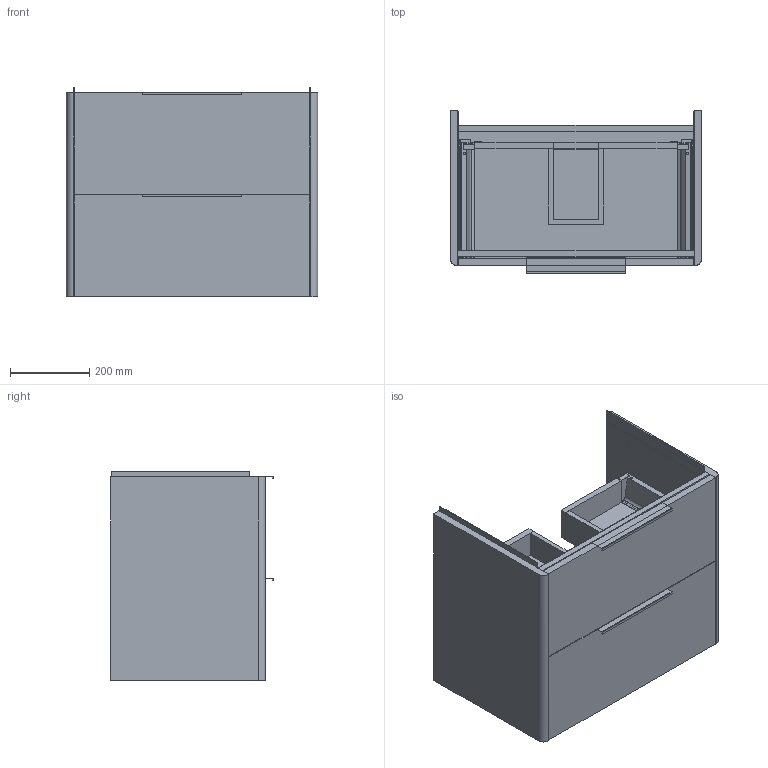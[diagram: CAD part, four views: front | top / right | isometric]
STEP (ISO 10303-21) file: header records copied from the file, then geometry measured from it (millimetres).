
FILE_DESCRIPTION(/* description */ (''),/* implementation_level */ '2;1');
FILE_NAME(/* name */ '3D8962~1',/* time_stamp */ '2018-05-07T13:15:11+02:00',/* author */ (''),/* organization */ (''),/* preprocessor_version */ 'ST-DEVELOPER v15',/* originating_system */ '',/* authorisation */ '');
FILE_SCHEMA (('AUTOMOTIVE_DESIGN'));
Length unit declared in the file: millimetre
Products named in the file (23): Document; 300-84_MIR3; 300-84_1_MIR3; 300-84_2_MIR3; 300-84_3_MIR3; 300-84; 300-84_1; 300-84_2; 300-84_3; maniglia inferiore; Maniglia superiore; Frontale cassetto inferiore; Retro_cassetto inferiore; Fascia rialzo; Retro cassetto superiore; Fondo cassetto inferiore; Fondo cassetto superiore; Fondo mobile; Fianco dx; Fianco sx; Catena inferiore; Frontale cassetto superiore; Catena_superiore
Assembly tree (24 placements, depth 3):
  Document
    300-84_MIR3  x2
      300-84_1_MIR3
      300-84_2_MIR3
      300-84_3_MIR3
    300-84  x2
      300-84_1
      300-84_2
      300-84_3
    maniglia inferiore
    Maniglia superiore
    Frontale cassetto inferiore
    Retro_cassetto inferiore
    Fascia rialzo
    Retro cassetto superiore
    Fondo cassetto inferiore
    Fondo cassetto superiore
    Fondo mobile
    Fianco dx
    Fianco sx
    Catena inferiore
    Frontale cassetto superiore
    Catena_superiore
Bounding box: 634.5 x 411.1 x 529 mm (x, y, z)
Volume: 26049469.7 mm3; surface area: 3822979.9 mm2
Topology: 28 solids, 28 shells, 1051 faces, 3125 edges, 2166 vertices
Faces by surface type: plane 772, bspline 279
Entity records: 19782 total; most frequent: CARTESIAN_POINT 7907, ORIENTED_EDGE 3454, EDGE_CURVE 1727, B_SPLINE_CURVE_WITH_KNOTS 1283, VERTEX_POINT 1198, EDGE_LOOP 689, ADVANCED_FACE 595, FACE_OUTER_BOUND 595
